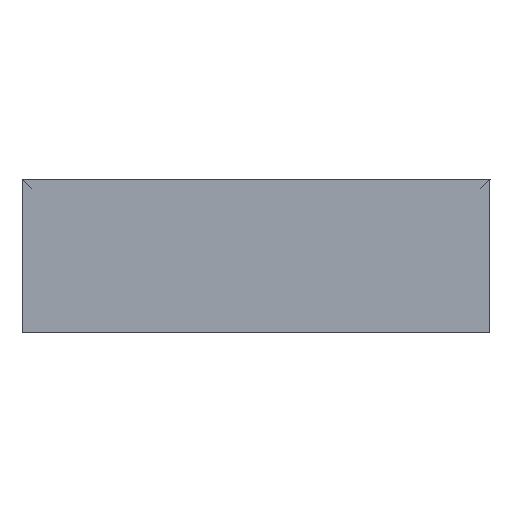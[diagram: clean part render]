
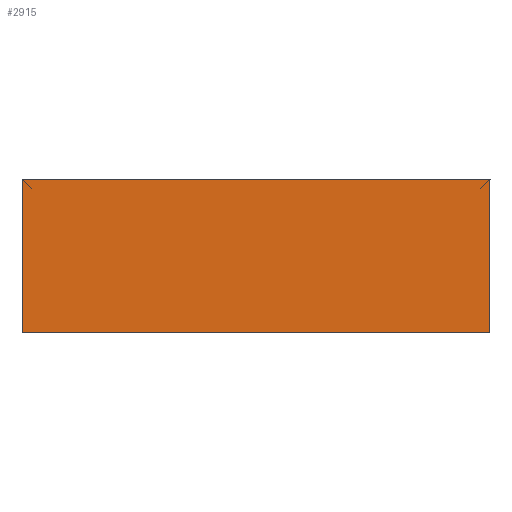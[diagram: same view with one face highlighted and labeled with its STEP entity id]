
A CAD part, left-side view. The second image highlights one B-rep face of the part: STEP entity #2915.
In plain terms, the highlighted planar face has unit normal (-1, 0, 0) as drawn and (0, -1, 0) by its records, which use the part's own axes.
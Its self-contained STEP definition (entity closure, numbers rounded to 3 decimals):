
#295 = CARTESIAN_POINT ( 'NONE',  ( -275., 0., 90. ) ) ;
#829 = LINE ( 'NONE', #7240, #13730 ) ;
#1954 = LINE ( 'NONE', #13581, #17628 ) ;
#2811 = VECTOR ( 'NONE', #5289, 1000. ) ;
#2915 = ADVANCED_FACE ( 'NONE', ( #7716 ), #9040, .T. ) ;
#4417 = DIRECTION ( 'NONE',  ( 0., -1., 0. ) ) ;
#4761 = EDGE_CURVE ( 'NONE', #13271, #20995, #829, .T. ) ;
#5241 = ORIENTED_EDGE ( 'NONE', *, *, #5414, .F. ) ;
#5289 = DIRECTION ( 'NONE',  ( 1., 0., 0. ) ) ;
#5414 = EDGE_CURVE ( 'NONE', #18047, #13686, #1954, .T. ) ;
#5842 = DIRECTION ( 'NONE',  ( 0., 0., -1. ) ) ;
#6686 = VECTOR ( 'NONE', #14579, 1000. ) ;
#7240 = CARTESIAN_POINT ( 'NONE',  ( 275., 0., 90. ) ) ;
#7716 = FACE_OUTER_BOUND ( 'NONE', #13279, .T. ) ;
#7808 = CARTESIAN_POINT ( 'NONE',  ( -275., 0., -90. ) ) ;
#9040 = PLANE ( 'NONE',  #10168 ) ;
#10168 = AXIS2_PLACEMENT_3D ( 'NONE', #14268, #4417, #5842 ) ;
#12147 = LINE ( 'NONE', #18929, #2811 ) ;
#12265 = CARTESIAN_POINT ( 'NONE',  ( -275., 0., -90. ) ) ;
#13017 = LINE ( 'NONE', #7808, #6686 ) ;
#13077 = EDGE_CURVE ( 'NONE', #20995, #18047, #13017, .T. ) ;
#13271 = VERTEX_POINT ( 'NONE', #14517 ) ;
#13279 = EDGE_LOOP ( 'NONE', ( #13379, #20859, #5241, #17008 ) ) ;
#13379 = ORIENTED_EDGE ( 'NONE', *, *, #4761, .F. ) ;
#13581 = CARTESIAN_POINT ( 'NONE',  ( -275., 0., 90. ) ) ;
#13686 = VERTEX_POINT ( 'NONE', #295 ) ;
#13730 = VECTOR ( 'NONE', #14011, 1000. ) ;
#13888 = EDGE_CURVE ( 'NONE', #13686, #13271, #12147, .T. ) ;
#14011 = DIRECTION ( 'NONE',  ( 0., 0., -1. ) ) ;
#14268 = CARTESIAN_POINT ( 'NONE',  ( 0., 0., 0. ) ) ;
#14517 = CARTESIAN_POINT ( 'NONE',  ( 275., 0., 90. ) ) ;
#14579 = DIRECTION ( 'NONE',  ( -1., 0., 0. ) ) ;
#17008 = ORIENTED_EDGE ( 'NONE', *, *, #13077, .F. ) ;
#17628 = VECTOR ( 'NONE', #18372, 1000. ) ;
#17808 = CARTESIAN_POINT ( 'NONE',  ( 275., 0., -90. ) ) ;
#18047 = VERTEX_POINT ( 'NONE', #12265 ) ;
#18372 = DIRECTION ( 'NONE',  ( 0., 0., 1. ) ) ;
#18929 = CARTESIAN_POINT ( 'NONE',  ( -275., 0., 90. ) ) ;
#20859 = ORIENTED_EDGE ( 'NONE', *, *, #13888, .F. ) ;
#20995 = VERTEX_POINT ( 'NONE', #17808 ) ;
